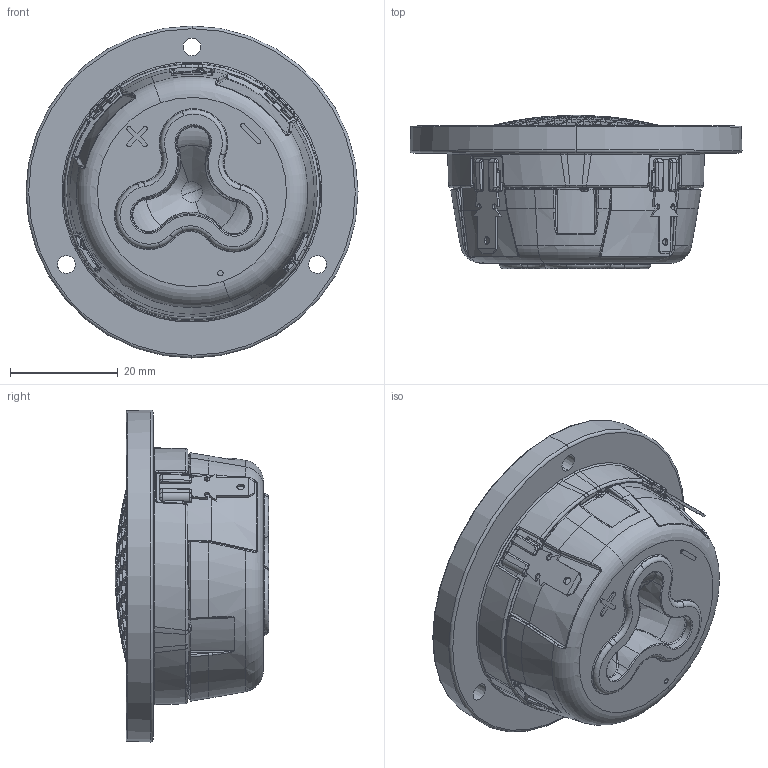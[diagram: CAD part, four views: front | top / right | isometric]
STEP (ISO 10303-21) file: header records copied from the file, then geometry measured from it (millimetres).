
FILE_DESCRIPTION (( 'STEP AP214' ), '1' );
FILE_NAME ('D3004-604000.STEP', '2020-10-29T08:50:37', ( '' ), ( '' ), 'SwSTEP 2.0', 'SolidWorks 2019', '' );
FILE_SCHEMA (( 'AUTOMOTIVE_DESIGN' ));
Length unit declared in the file: millimetre
Products named in the file (1): D3004-604000
Bounding box: 61.66 x 28.48 x 61.66 mm (x, y, z)
Volume: 42711 mm3; surface area: 13095 mm2
Topology: 1 solids, 2 shells, 1945 faces, 5724 edges, 3663 vertices
Faces by surface type: plane 1103, cylinder 305, torus 231, bspline 191, cone 89, sphere 26
Entity records: 93358 total; most frequent: CARTESIAN_POINT 19751, ORIENTED_EDGE 11386, DIRECTION 11298, EDGE_CURVE 5693, AXIS2_PLACEMENT_3D 4761, VERTEX_POINT 3663, CIRCLE 3006, EDGE_LOOP 2176
